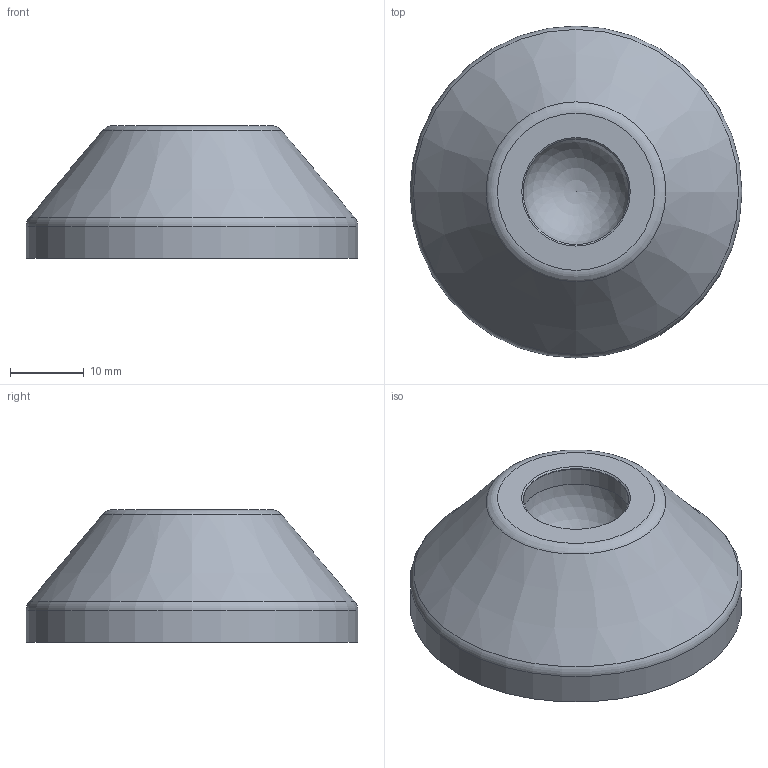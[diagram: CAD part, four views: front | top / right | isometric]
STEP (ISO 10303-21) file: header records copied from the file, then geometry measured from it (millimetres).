
FILE_DESCRIPTION(('STEP AP203'), '1');
FILE_NAME('A00015.1045 _ Îñíîâàíèÿ øàðíèðíûõ îïîð èç ïëàñòèêà, 20°', '', ('UNSPECIFIED'), ('UNSPECIFIED'), 'C3D Converter', 'C3D Toolkit', '');
FILE_SCHEMA(('CONFIG_CONTROL_DESIGN'));
Length unit declared in the file: millimetre
Products named in the file (1): A00015.1045
Bounding box: 45 x 45 x 18 mm (x, y, z)
Volume: 12042.8 mm3; surface area: 6621.2 mm2
Topology: 1 solids, 1 shells, 98 faces, 273 edges, 179 vertices
Faces by surface type: plane 60, cylinder 22, torus 12, cone 3, sphere 1
Full cylindrical faces by diameter (mm): 14.3 x1, 15 x2, 15.5 x1, 37.3 x1, 45 x1
Entity records: 4031 total; most frequent: CARTESIAN_POINT 1511, DIRECTION 522, ORIENTED_EDGE 516, EDGE_CURVE 258, AXIS2_PLACEMENT_3D 197, VERTEX_POINT 178, LINE 128, VECTOR 128
